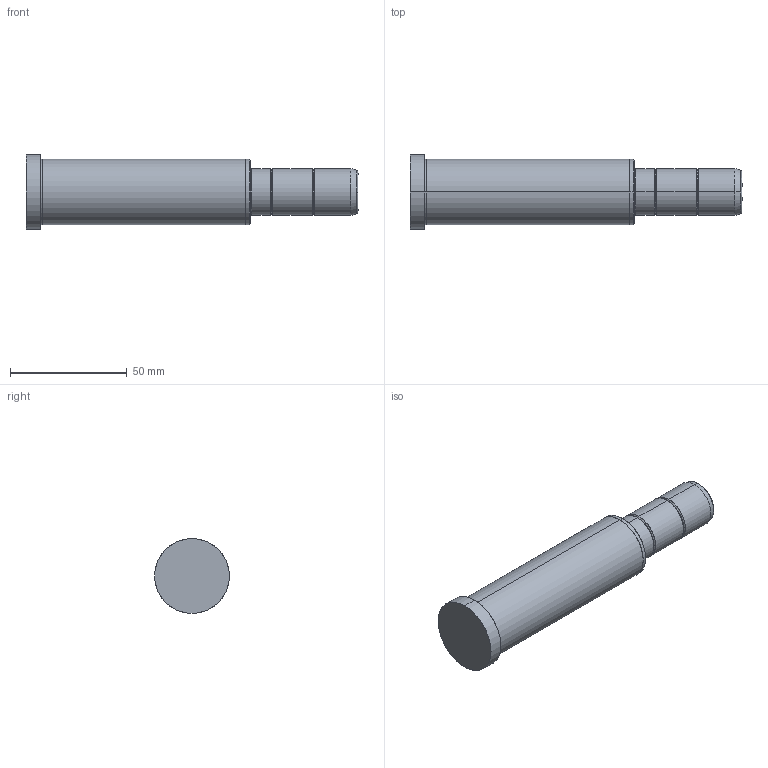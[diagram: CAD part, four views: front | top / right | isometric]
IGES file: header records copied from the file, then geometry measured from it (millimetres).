
Start section: SolidWorks IGES file using analytic representation for surfaces
Global section: file name: C:\Users\Dell\Desktop\deltakont\kontrol edilecekler\D02\Ø20\D02_20x96x46.IGS; native system: SolidWorks 2010; preprocessor: SolidWorks 2010; author: Dell; date: 111225.220603; units: millimetre
Bounding box: 142 x 32 x 32 mm (x, y, z)
Surface area: 12983.2 mm2 (no closed solid volume)
Topology: 0 solids, 0 shells, 36 faces, 688 edges, 688 vertices
Faces by surface type: bspline 18, revolution 18
